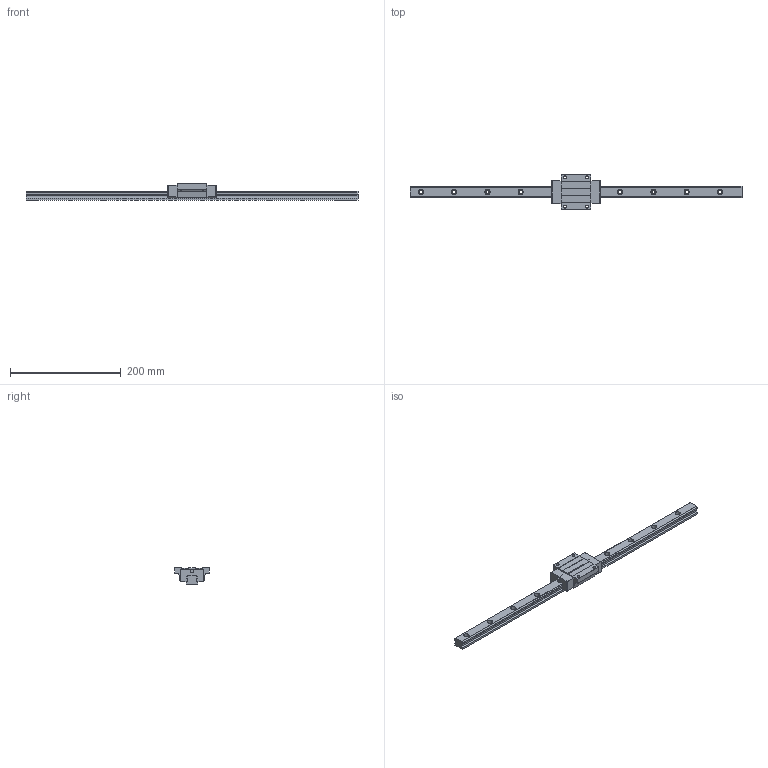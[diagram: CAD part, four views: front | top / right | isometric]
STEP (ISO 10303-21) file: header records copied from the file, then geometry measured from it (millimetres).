
FILE_DESCRIPTION (( 'STEP AP203' ), '1' );
FILE_NAME ('TRH20FN-WW-§ï.STEP', '2023-08-30T01:26:31', ( '' ), ( '' ), 'SwSTEP 2.0', 'SolidWorks 2022', '' );
FILE_SCHEMA (( 'CONFIG_CONTROL_DESIGN' ));
Length unit declared in the file: millimetre
Products named in the file (1): TRH20FN-WW-改
Bounding box: 600 x 63 x 30 mm (x, y, z)
Volume: 248945.9 mm3; surface area: 65310.4 mm2
Topology: 1 solids, 1 shells, 187 faces, 530 edges, 346 vertices
Faces by surface type: cylinder 100, plane 83, sphere 4
Entity records: 6533 total; most frequent: CARTESIAN_POINT 1412, DIRECTION 1078, ORIENTED_EDGE 1052, EDGE_CURVE 526, AXIS2_PLACEMENT_3D 382, VERTEX_POINT 346, VECTOR 314, LINE 314
